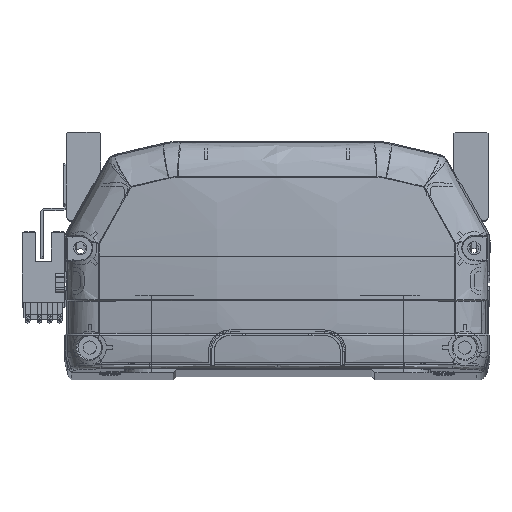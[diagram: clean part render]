
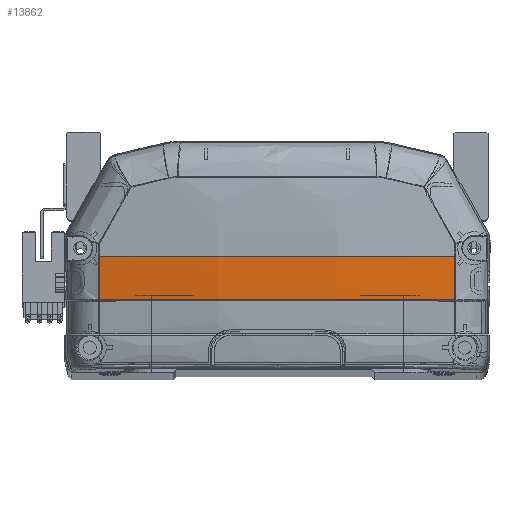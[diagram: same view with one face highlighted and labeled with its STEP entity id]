
A CAD part, top view. The second image highlights one B-rep face of the part: STEP entity #13862.
In plain terms, the highlighted free-form (B-spline) face has degree [3, 3] with [4, 4] control points.
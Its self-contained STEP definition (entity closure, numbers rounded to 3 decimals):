
#76 = CARTESIAN_POINT ( 'NONE',  ( 57.335, 31.38, -5.042 ) ) ;
#588 = CARTESIAN_POINT ( 'NONE',  ( 8.363, 22.225, -9.48 ) ) ;
#1147 = ORIENTED_EDGE ( 'NONE', *, *, #38651, .F. ) ;
#3207 = CARTESIAN_POINT ( 'NONE',  ( -56.661, 22.225, -4.818 ) ) ;
#3579 = CARTESIAN_POINT ( 'NONE',  ( 56.661, 22.225, -4.818 ) ) ;
#3655 = CARTESIAN_POINT ( 'NONE',  ( 57.335, 22.148, -4.7 ) ) ;
#3980 = CARTESIAN_POINT ( 'NONE',  ( -57.335, 22.148, -4.7 ) ) ;
#4015 = CARTESIAN_POINT ( 'NONE',  ( 23.877, 22.225, -8.763 ) ) ;
#4799 =( BOUNDED_SURFACE ( )  B_SPLINE_SURFACE ( 3, 3, ( 
 ( #3655, #48330, #76, #7693 ),
 ( #36901, #44887, #10781, #18505 ),
 ( #22610, #25702, #37388, #14571 ),
 ( #3980, #44406, #22131, #7538 ) ),
 .UNSPECIFIED., .F., .F., .F. ) 
 B_SPLINE_SURFACE_WITH_KNOTS ( ( 4, 4 ),
 ( 4, 4 ),
 ( 0., 1. ),
 ( 0., 1. ),
 .UNSPECIFIED. ) 
 GEOMETRIC_REPRESENTATION_ITEM ( )  RATIONAL_B_SPLINE_SURFACE ( (
 ( 1., 1., 1., 1.),
 ( 0.99, 0.99, 0.99, 0.99),
 ( 0.99, 0.99, 0.99, 0.99),
 ( 1., 1., 1., 1.) ) ) 
 REPRESENTATION_ITEM ( '' )  SURFACE ( )  );
#5178 = CARTESIAN_POINT ( 'NONE',  ( 56.652, 26.806, -5.044 ) ) ;
#5316 = CARTESIAN_POINT ( 'NONE',  ( -56.661, 22.225, -4.818 ) ) ;
#5631 = CARTESIAN_POINT ( 'NONE',  ( -56.647, 31.405, -5.158 ) ) ;
#6057 = EDGE_CURVE ( 'NONE', #32900, #11959, #18094, .T. ) ;
#7404 = CARTESIAN_POINT ( 'NONE',  ( 4.761, 22.225, -9.537 ) ) ;
#7538 = CARTESIAN_POINT ( 'NONE',  ( -57.335, 36., -5.042 ) ) ;
#7693 = CARTESIAN_POINT ( 'NONE',  ( 57.335, 36., -5.042 ) ) ;
#8152 = CARTESIAN_POINT ( 'NONE',  ( 6452.613, 35.969, -5.158 ) ) ;
#10781 = CARTESIAN_POINT ( 'NONE',  ( 19.295, 31.274, -11.535 ) ) ;
#11959 = VERTEX_POINT ( 'NONE', #3207 ) ;
#12871 = CARTESIAN_POINT ( 'NONE',  ( 56.647, 36., -5.158 ) ) ;
#13862 = ADVANCED_FACE ( 'NONE', ( #33420 ), #4799, .T. ) ;
#14571 = CARTESIAN_POINT ( 'NONE',  ( -19.295, 36., -11.535 ) ) ;
#14936 = CARTESIAN_POINT ( 'NONE',  ( -56.661, 22.225, -4.818 ) ) ;
#15722 = VERTEX_POINT ( 'NONE', #41335 ) ;
#15910 = CIRCLE ( 'NONE', #46942, 6395.966 ) ;
#16315 = CARTESIAN_POINT ( 'NONE',  ( 56.647, 31.387, -5.158 ) ) ;
#16326 = B_SPLINE_CURVE_WITH_KNOTS ( 'NONE', 3,
 ( #39538, #5631, #20377, #5316 ),
 .UNSPECIFIED., .F., .F.,
 ( 4, 4 ),
 ( 0., 1. ),
 .UNSPECIFIED. ) ;
#17010 = ORIENTED_EDGE ( 'NONE', *, *, #25239, .F. ) ;
#18094 = B_SPLINE_CURVE_WITH_KNOTS ( 'NONE', 3,
 ( #26383, #40990, #44757, #4015, #29797, #22336, #588, #7404, #30124, #33550, #34027, #33868, #14936 ),
 .UNSPECIFIED., .F., .F.,
 ( 4, 2, 2, 1, 2, 2, 4 ),
 ( 0., 0.25, 0.375, 0.438, 0.469, 0.5, 1. ),
 .UNSPECIFIED. ) ;
#18505 = CARTESIAN_POINT ( 'NONE',  ( 19.295, 36., -11.535 ) ) ;
#19154 = DIRECTION ( 'NONE',  ( -1., 0., 0. ) ) ;
#20377 = CARTESIAN_POINT ( 'NONE',  ( -56.652, 26.814, -5.045 ) ) ;
#21142 = VERTEX_POINT ( 'NONE', #30445 ) ;
#22131 = CARTESIAN_POINT ( 'NONE',  ( -57.335, 31.38, -5.042 ) ) ;
#22336 = CARTESIAN_POINT ( 'NONE',  ( 11.954, 22.225, -9.367 ) ) ;
#22610 = CARTESIAN_POINT ( 'NONE',  ( -19.295, 21.828, -11.186 ) ) ;
#23978 = VERTEX_POINT ( 'NONE', #12871 ) ;
#24955 = DIRECTION ( 'NONE',  ( 0., 0., -1. ) ) ;
#25239 = EDGE_CURVE ( 'NONE', #23978, #21142, #26597, .T. ) ;
#25702 = CARTESIAN_POINT ( 'NONE',  ( -19.295, 26.549, -11.419 ) ) ;
#26383 = CARTESIAN_POINT ( 'NONE',  ( 56.661, 22.225, -4.818 ) ) ;
#26597 = CIRCLE ( 'NONE', #33327, 340.733 ) ;
#27331 = EDGE_CURVE ( 'NONE', #21142, #11959, #16326, .T. ) ;
#27716 = CARTESIAN_POINT ( 'NONE',  ( 56.647, 35.969, -5.158 ) ) ;
#28174 = DIRECTION ( 'NONE',  ( 0., 1., 0. ) ) ;
#29797 = CARTESIAN_POINT ( 'NONE',  ( 19.121, 22.225, -9.064 ) ) ;
#30124 = CARTESIAN_POINT ( 'NONE',  ( 2.357, 22.225, -9.562 ) ) ;
#30445 = CARTESIAN_POINT ( 'NONE',  ( -56.647, 36., -5.158 ) ) ;
#31014 = CARTESIAN_POINT ( 'NONE',  ( 56.661, 22.225, -4.818 ) ) ;
#32104 = CARTESIAN_POINT ( 'NONE',  ( 0., 36., 330.833 ) ) ;
#32900 = VERTEX_POINT ( 'NONE', #3579 ) ;
#33327 = AXIS2_PLACEMENT_3D ( 'NONE', #32104, #28174, #24955 ) ;
#33420 = FACE_OUTER_BOUND ( 'NONE', #40058, .T. ) ;
#33550 = CARTESIAN_POINT ( 'NONE',  ( 1.152, 22.225, -9.568 ) ) ;
#33868 = CARTESIAN_POINT ( 'NONE',  ( -38.235, 22.225, -7.93 ) ) ;
#34027 = CARTESIAN_POINT ( 'NONE',  ( -19.28, 22.225, -9.565 ) ) ;
#36901 = CARTESIAN_POINT ( 'NONE',  ( 19.295, 21.828, -11.186 ) ) ;
#37214 = EDGE_CURVE ( 'NONE', #32900, #15722, #39947, .T. ) ;
#37388 = CARTESIAN_POINT ( 'NONE',  ( -19.295, 31.274, -11.535 ) ) ;
#37679 = DIRECTION ( 'NONE',  ( 0., 0., -1. ) ) ;
#38581 = ORIENTED_EDGE ( 'NONE', *, *, #37214, .F. ) ;
#38651 = EDGE_CURVE ( 'NONE', #15722, #23978, #15910, .T. ) ;
#39538 = CARTESIAN_POINT ( 'NONE',  ( -56.647, 36., -5.158 ) ) ;
#39947 = B_SPLINE_CURVE_WITH_KNOTS ( 'NONE', 3,
 ( #31014, #5178, #16315, #27716 ),
 .UNSPECIFIED., .F., .F.,
 ( 4, 4 ),
 ( 0., 1. ),
 .UNSPECIFIED. ) ;
#40058 = EDGE_LOOP ( 'NONE', ( #17010, #1147, #38581, #45649, #45623 ) ) ;
#40990 = CARTESIAN_POINT ( 'NONE',  ( 47.432, 22.225, -6.377 ) ) ;
#41335 = CARTESIAN_POINT ( 'NONE',  ( 56.647, 35.969, -5.158 ) ) ;
#44406 = CARTESIAN_POINT ( 'NONE',  ( -57.335, 26.762, -4.928 ) ) ;
#44757 = CARTESIAN_POINT ( 'NONE',  ( 38.071, 22.225, -7.566 ) ) ;
#44887 = CARTESIAN_POINT ( 'NONE',  ( 19.295, 26.549, -11.419 ) ) ;
#45623 = ORIENTED_EDGE ( 'NONE', *, *, #27331, .F. ) ;
#45649 = ORIENTED_EDGE ( 'NONE', *, *, #6057, .T. ) ;
#46942 = AXIS2_PLACEMENT_3D ( 'NONE', #8152, #37679, #19154 ) ;
#48330 = CARTESIAN_POINT ( 'NONE',  ( 57.335, 26.762, -4.928 ) ) ;
